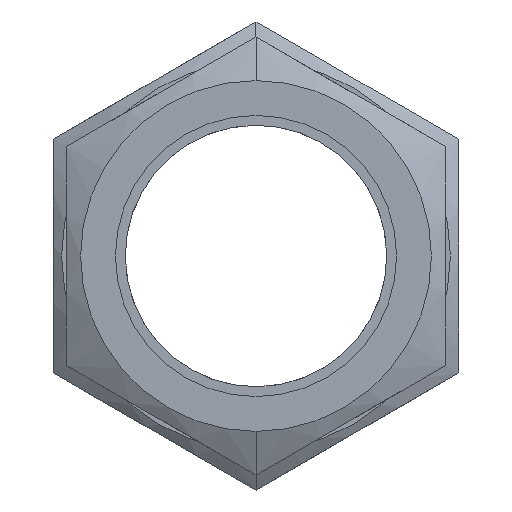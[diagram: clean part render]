
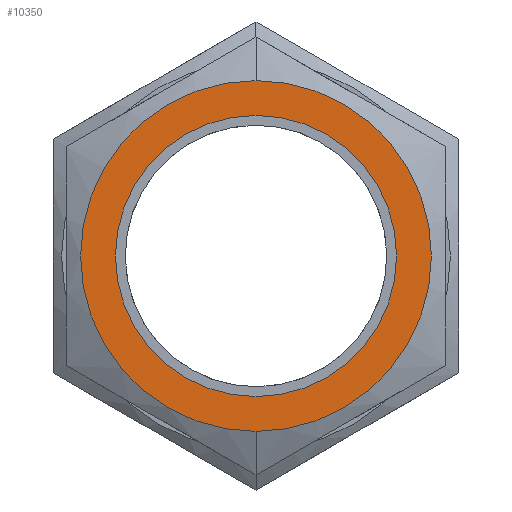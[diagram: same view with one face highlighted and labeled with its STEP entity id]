
A CAD part, left-side view. The second image highlights one B-rep face of the part: STEP entity #10350.
In plain terms, the highlighted planar face has unit normal (-1, 0, 0).
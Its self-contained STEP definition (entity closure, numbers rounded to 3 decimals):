
#2121 = ORIENTED_EDGE ( 'NONE', *, *, #10499, .F. ) ;
#2122 = ORIENTED_EDGE ( 'NONE', *, *, #11006, .F. ) ;
#2512 = EDGE_LOOP ( 'NONE', ( #7933, #7932 ) ) ;
#2517 = EDGE_LOOP ( 'NONE', ( #2121, #2122 ) ) ;
#3189 = CARTESIAN_POINT ( 'NONE',  ( -813.508, -21.5, 71.953 ) ) ;
#3190 = FACE_OUTER_BOUND ( 'NONE', #2517, .T. ) ;
#3195 = FACE_BOUND ( 'NONE', #2512, .T. ) ;
#3196 = PLANE ( 'NONE',  #16737 ) ;
#3198 = DIRECTION ( 'NONE',  ( 1., 0., 0. ) ) ;
#3199 = DIRECTION ( 'NONE',  ( 0., 0., 1. ) ) ;
#4406 = CARTESIAN_POINT ( 'NONE',  ( -813.508, 0., 71.953 ) ) ;
#4407 = DIRECTION ( 'NONE',  ( 1., 0., 0. ) ) ;
#4408 = DIRECTION ( 'NONE',  ( 0., 0., 1. ) ) ;
#4741 = CARTESIAN_POINT ( 'NONE',  ( -813.508, 0., 71.953 ) ) ;
#4742 = DIRECTION ( 'NONE',  ( 1., 0., 0. ) ) ;
#4743 = DIRECTION ( 'NONE',  ( 0., 0., 1. ) ) ;
#6936 = AXIS2_PLACEMENT_3D ( 'NONE', #4406, #4407, #4408 ) ;
#6950 = CIRCLE ( 'NONE', #6955, 21.5 ) ;
#6955 = AXIS2_PLACEMENT_3D ( 'NONE', #4741, #4742, #4743 ) ;
#7122 = CIRCLE ( 'NONE', #6936, 26.834 ) ;
#7209 = AXIS2_PLACEMENT_3D ( 'NONE', #13231, #13232, #13233 ) ;
#7211 = CIRCLE ( 'NONE', #7209, 26.834 ) ;
#7223 = AXIS2_PLACEMENT_3D ( 'NONE', #13113, #13114, #13115 ) ;
#7226 = CIRCLE ( 'NONE', #7223, 21.5 ) ;
#7932 = ORIENTED_EDGE ( 'NONE', *, *, #10520, .T. ) ;
#7933 = ORIENTED_EDGE ( 'NONE', *, *, #10973, .T. ) ;
#10350 = ADVANCED_FACE ( 'NONE', ( #3195, #3190 ), #3196, .F. ) ;
#10499 = EDGE_CURVE ( 'NONE', #17070, #17056, #7122, .T. ) ;
#10520 = EDGE_CURVE ( 'NONE', #17059, #16979, #6950, .T. ) ;
#10973 = EDGE_CURVE ( 'NONE', #16979, #17059, #7226, .T. ) ;
#11006 = EDGE_CURVE ( 'NONE', #17056, #17070, #7211, .T. ) ;
#13113 = CARTESIAN_POINT ( 'NONE',  ( -813.508, 0., 71.953 ) ) ;
#13114 = DIRECTION ( 'NONE',  ( 1., 0., 0. ) ) ;
#13115 = DIRECTION ( 'NONE',  ( 0., 0., 1. ) ) ;
#13231 = CARTESIAN_POINT ( 'NONE',  ( -813.508, 0., 71.953 ) ) ;
#13232 = DIRECTION ( 'NONE',  ( 1., 0., 0. ) ) ;
#13233 = DIRECTION ( 'NONE',  ( 0., 0., 1. ) ) ;
#13277 = CARTESIAN_POINT ( 'NONE',  ( -813.508, 0., 93.453 ) ) ;
#13352 = CARTESIAN_POINT ( 'NONE',  ( -813.508, 0., 45.119 ) ) ;
#13355 = CARTESIAN_POINT ( 'NONE',  ( -813.508, 0., 50.453 ) ) ;
#13366 = CARTESIAN_POINT ( 'NONE',  ( -813.508, 0., 98.787 ) ) ;
#16737 = AXIS2_PLACEMENT_3D ( 'NONE', #3189, #3198, #3199 ) ;
#16979 = VERTEX_POINT ( 'NONE', #13277 ) ;
#17056 = VERTEX_POINT ( 'NONE', #13352 ) ;
#17059 = VERTEX_POINT ( 'NONE', #13355 ) ;
#17070 = VERTEX_POINT ( 'NONE', #13366 ) ;
